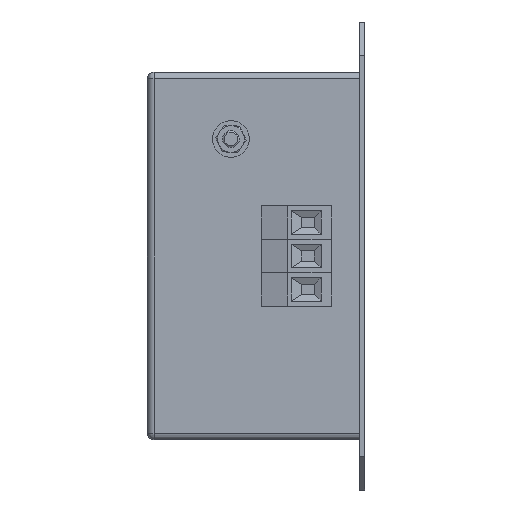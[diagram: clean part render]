
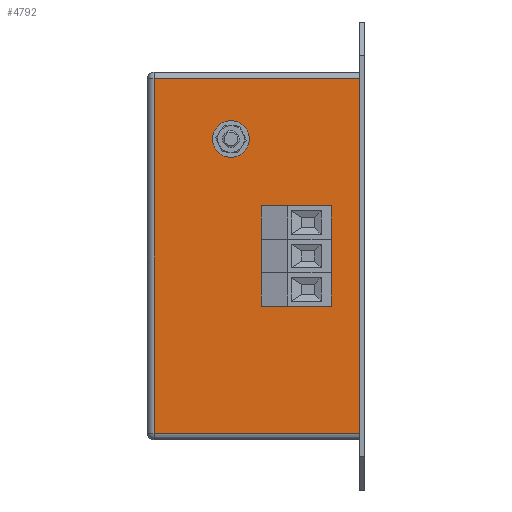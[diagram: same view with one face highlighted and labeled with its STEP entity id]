
A CAD part, left-side view. The second image highlights one B-rep face of the part: STEP entity #4792.
In plain terms, the highlighted planar face has unit normal (-1, 0, 0).
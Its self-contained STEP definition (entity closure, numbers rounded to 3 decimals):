
#80 = CARTESIAN_POINT ( 'NONE',  ( 0., 20., 60. ) ) ;
#318 = DIRECTION ( 'NONE',  ( 0., 0., -1. ) ) ;
#387 = ORIENTED_EDGE ( 'NONE', *, *, #1181, .T. ) ;
#492 = CARTESIAN_POINT ( 'NONE',  ( 0., 20., 84.1 ) ) ;
#527 = EDGE_CURVE ( 'NONE', #586, #4733, #7537, .T. ) ;
#533 = DIRECTION ( 'NONE',  ( 0., 0., -1. ) ) ;
#573 = PLANE ( 'NONE',  #7925 ) ;
#586 = VERTEX_POINT ( 'NONE', #5869 ) ;
#625 = DIRECTION ( 'NONE',  ( 1., 0., 0. ) ) ;
#627 = EDGE_CURVE ( 'NONE', #5740, #586, #1587, .T. ) ;
#718 = CIRCLE ( 'NONE', #6144, 4.1 ) ;
#951 = ORIENTED_EDGE ( 'NONE', *, *, #8020, .T. ) ;
#963 = CIRCLE ( 'NONE', #4873, 2.5 ) ;
#967 = ORIENTED_EDGE ( 'NONE', *, *, #5309, .T. ) ;
#1022 = VERTEX_POINT ( 'NONE', #7048 ) ;
#1113 = FACE_BOUND ( 'NONE', #5463, .T. ) ;
#1115 = CIRCLE ( 'NONE', #3997, 4.1 ) ;
#1181 = EDGE_CURVE ( 'NONE', #4975, #1690, #2085, .T. ) ;
#1384 = DIRECTION ( 'NONE',  ( 1., 0., 0. ) ) ;
#1400 = CARTESIAN_POINT ( 'NONE',  ( 0., 20., 65.9 ) ) ;
#1509 = CARTESIAN_POINT ( 'NONE',  ( 0., 20., 70. ) ) ;
#1517 = DIRECTION ( 'NONE',  ( 0., 0., -1. ) ) ;
#1587 = LINE ( 'NONE', #3361, #3121 ) ;
#1630 = VERTEX_POINT ( 'NONE', #2922 ) ;
#1684 = EDGE_LOOP ( 'NONE', ( #387, #7466 ) ) ;
#1690 = VERTEX_POINT ( 'NONE', #492 ) ;
#1778 = EDGE_CURVE ( 'NONE', #5922, #1956, #963, .T. ) ;
#1874 = DIRECTION ( 'NONE',  ( 1., 0., 0. ) ) ;
#1956 = VERTEX_POINT ( 'NONE', #2740 ) ;
#2032 = LINE ( 'NONE', #6378, #2752 ) ;
#2085 = CIRCLE ( 'NONE', #3109, 4.1 ) ;
#2324 = VECTOR ( 'NONE', #7481, 1000. ) ;
#2452 = CARTESIAN_POINT ( 'NONE',  ( 0., 40., 105. ) ) ;
#2740 = CARTESIAN_POINT ( 'NONE',  ( 0., 40., 102.5 ) ) ;
#2752 = VECTOR ( 'NONE', #533, 1000. ) ;
#2846 = DIRECTION ( 'NONE',  ( 1., 0., 0. ) ) ;
#2922 = CARTESIAN_POINT ( 'NONE',  ( 0., 20., 64.1 ) ) ;
#3048 = DIRECTION ( 'NONE',  ( 1., 0., 0. ) ) ;
#3071 = DIRECTION ( 'NONE',  ( 0., 0., -1. ) ) ;
#3109 = AXIS2_PLACEMENT_3D ( 'NONE', #8048, #4185, #6282 ) ;
#3121 = VECTOR ( 'NONE', #4050, 1000. ) ;
#3187 = CARTESIAN_POINT ( 'NONE',  ( 0., 63., 123. ) ) ;
#3314 = DIRECTION ( 'NONE',  ( 1., 0., 0. ) ) ;
#3344 = DIRECTION ( 'NONE',  ( 0., 0., -1. ) ) ;
#3361 = CARTESIAN_POINT ( 'NONE',  ( 0., 1.5, 15. ) ) ;
#3468 = CARTESIAN_POINT ( 'NONE',  ( 0., 20., 70. ) ) ;
#3474 = FACE_BOUND ( 'NONE', #7381, .T. ) ;
#3836 = DIRECTION ( 'NONE',  ( 0., 1., 0. ) ) ;
#3961 = FACE_BOUND ( 'NONE', #1684, .T. ) ;
#3997 = AXIS2_PLACEMENT_3D ( 'NONE', #1509, #6685, #4659 ) ;
#4050 = DIRECTION ( 'NONE',  ( 0., 0., 1. ) ) ;
#4162 = AXIS2_PLACEMENT_3D ( 'NONE', #3468, #2846, #1517 ) ;
#4185 = DIRECTION ( 'NONE',  ( 1., 0., 0. ) ) ;
#4212 = CARTESIAN_POINT ( 'NONE',  ( 0., 63., 17. ) ) ;
#4219 = VERTEX_POINT ( 'NONE', #1400 ) ;
#4245 = CIRCLE ( 'NONE', #7395, 2.5 ) ;
#4320 = CARTESIAN_POINT ( 'NONE',  ( 0., 40., 107.5 ) ) ;
#4363 = CARTESIAN_POINT ( 'NONE',  ( 0., 40., 105. ) ) ;
#4524 = DIRECTION ( 'NONE',  ( 0., 0., -1. ) ) ;
#4531 = CARTESIAN_POINT ( 'NONE',  ( 0., 65., 15. ) ) ;
#4659 = DIRECTION ( 'NONE',  ( 0., 0., -1. ) ) ;
#4733 = VERTEX_POINT ( 'NONE', #3187 ) ;
#4780 = CARTESIAN_POINT ( 'NONE',  ( 0., 20., 60. ) ) ;
#4792 = ADVANCED_FACE ( 'NONE', ( #7982, #3961, #1113, #3474, #4941 ), #573, .F. ) ;
#4820 = CARTESIAN_POINT ( 'NONE',  ( 0., 20., 74.1 ) ) ;
#4861 = ORIENTED_EDGE ( 'NONE', *, *, #7903, .T. ) ;
#4873 = AXIS2_PLACEMENT_3D ( 'NONE', #2452, #1874, #6960 ) ;
#4941 = FACE_OUTER_BOUND ( 'NONE', #6915, .T. ) ;
#4975 = VERTEX_POINT ( 'NONE', #5328 ) ;
#5060 = ORIENTED_EDGE ( 'NONE', *, *, #7718, .T. ) ;
#5179 = CARTESIAN_POINT ( 'NONE',  ( 0., 20., 80. ) ) ;
#5233 = ORIENTED_EDGE ( 'NONE', *, *, #6649, .T. ) ;
#5309 = EDGE_CURVE ( 'NONE', #4733, #5764, #2032, .T. ) ;
#5328 = CARTESIAN_POINT ( 'NONE',  ( 0., 20., 75.9 ) ) ;
#5391 = DIRECTION ( 'NONE',  ( 1., 0., 0. ) ) ;
#5463 = EDGE_LOOP ( 'NONE', ( #5233, #6603 ) ) ;
#5503 = EDGE_CURVE ( 'NONE', #1690, #4975, #718, .T. ) ;
#5558 = ORIENTED_EDGE ( 'NONE', *, *, #1778, .T. ) ;
#5643 = EDGE_CURVE ( 'NONE', #7453, #4219, #1115, .T. ) ;
#5695 = CIRCLE ( 'NONE', #6978, 4.1 ) ;
#5740 = VERTEX_POINT ( 'NONE', #8078 ) ;
#5764 = VERTEX_POINT ( 'NONE', #4212 ) ;
#5819 = VECTOR ( 'NONE', #3836, 1000. ) ;
#5869 = CARTESIAN_POINT ( 'NONE',  ( 0., 1.5, 123. ) ) ;
#5922 = VERTEX_POINT ( 'NONE', #4320 ) ;
#6144 = AXIS2_PLACEMENT_3D ( 'NONE', #5179, #1384, #4524 ) ;
#6194 = CARTESIAN_POINT ( 'NONE',  ( 0., 65., 17. ) ) ;
#6282 = DIRECTION ( 'NONE',  ( 0., 0., -1. ) ) ;
#6378 = CARTESIAN_POINT ( 'NONE',  ( 0., 63., 15. ) ) ;
#6478 = DIRECTION ( 'NONE',  ( 0., 0., -1. ) ) ;
#6603 = ORIENTED_EDGE ( 'NONE', *, *, #5643, .T. ) ;
#6649 = EDGE_CURVE ( 'NONE', #4219, #7453, #7461, .T. ) ;
#6685 = DIRECTION ( 'NONE',  ( 1., 0., 0. ) ) ;
#6915 = EDGE_LOOP ( 'NONE', ( #967, #7940, #8032, #8328 ) ) ;
#6960 = DIRECTION ( 'NONE',  ( 0., 0., -1. ) ) ;
#6978 = AXIS2_PLACEMENT_3D ( 'NONE', #80, #3314, #3344 ) ;
#7048 = CARTESIAN_POINT ( 'NONE',  ( 0., 20., 55.9 ) ) ;
#7348 = LINE ( 'NONE', #6194, #2324 ) ;
#7381 = EDGE_LOOP ( 'NONE', ( #4861, #5060 ) ) ;
#7395 = AXIS2_PLACEMENT_3D ( 'NONE', #4363, #3048, #3071 ) ;
#7453 = VERTEX_POINT ( 'NONE', #4820 ) ;
#7461 = CIRCLE ( 'NONE', #4162, 4.1 ) ;
#7466 = ORIENTED_EDGE ( 'NONE', *, *, #5503, .T. ) ;
#7481 = DIRECTION ( 'NONE',  ( 0., -1., 0. ) ) ;
#7537 = LINE ( 'NONE', #8364, #5819 ) ;
#7657 = CIRCLE ( 'NONE', #8276, 4.1 ) ;
#7718 = EDGE_CURVE ( 'NONE', #1630, #1022, #5695, .T. ) ;
#7808 = EDGE_LOOP ( 'NONE', ( #951, #5558 ) ) ;
#7903 = EDGE_CURVE ( 'NONE', #1022, #1630, #7657, .T. ) ;
#7925 = AXIS2_PLACEMENT_3D ( 'NONE', #4531, #625, #6478 ) ;
#7940 = ORIENTED_EDGE ( 'NONE', *, *, #8077, .T. ) ;
#7982 = FACE_BOUND ( 'NONE', #7808, .T. ) ;
#8020 = EDGE_CURVE ( 'NONE', #1956, #5922, #4245, .T. ) ;
#8032 = ORIENTED_EDGE ( 'NONE', *, *, #627, .T. ) ;
#8048 = CARTESIAN_POINT ( 'NONE',  ( 0., 20., 80. ) ) ;
#8077 = EDGE_CURVE ( 'NONE', #5764, #5740, #7348, .T. ) ;
#8078 = CARTESIAN_POINT ( 'NONE',  ( 0., 1.5, 17. ) ) ;
#8276 = AXIS2_PLACEMENT_3D ( 'NONE', #4780, #5391, #318 ) ;
#8328 = ORIENTED_EDGE ( 'NONE', *, *, #527, .T. ) ;
#8364 = CARTESIAN_POINT ( 'NONE',  ( 0., 65., 123. ) ) ;
